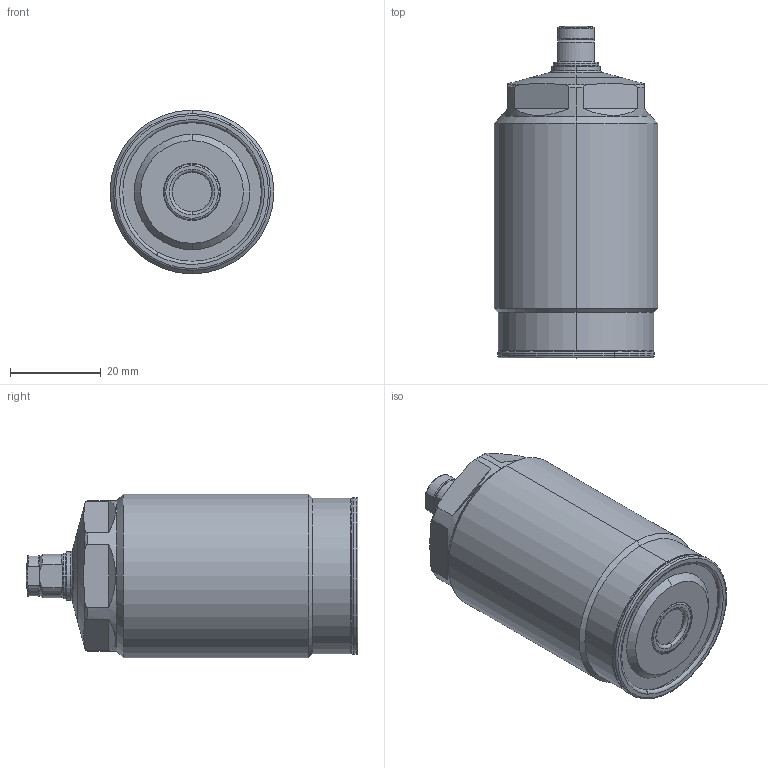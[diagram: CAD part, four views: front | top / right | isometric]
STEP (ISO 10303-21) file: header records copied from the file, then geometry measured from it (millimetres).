
FILE_DESCRIPTION(/* description */ (''),/* implementation_level */ '2;1');
FILE_NAME(/* name */ 'TNL36.stp',/* time_stamp */ '2022-11-17T13:22:42+08:00',/* author */ (''),/* organization */ (''),/* preprocessor_version */ 'ST-DEVELOPER v16.7',/* originating_system */ 'SIEMENS PLM Software NX 12.0',/* authorisation */ '');
FILE_SCHEMA (('AP203_CONFIGURATION_CONTROLLED_3D_DESIGN_OF_MECHANICAL_PARTS_AND_ASSEMBLIES_MIM_LF { 1 0 10303 403 2 1 2}'));
Length unit declared in the file: millimetre
Products named in the file (6): TNL36-01; TNL36-04; TNL36-03; TNL36-02; TNL36-05; WNC1603-x_step
Assembly tree (5 placements, depth 2):
  WNC1603-x_step
    TNL36-05
    TNL36-02
    TNL36-03
    TNL36-04
    TNL36-01
Bounding box: 36 x 73 x 36 mm (x, y, z)
Volume: 59500.2 mm3; surface area: 10571 mm2
Topology: 5 solids, 5 shells, 151 faces, 333 edges, 201 vertices
Faces by surface type: torus 47, cylinder 40, plane 36, cone 26, sphere 2
Entity records: 5181 total; most frequent: CARTESIAN_POINT 1081, DIRECTION 808, ORIENTED_EDGE 666, AXIS2_PLACEMENT_3D 358, EDGE_CURVE 333, VERTEX_POINT 201, CIRCLE 201, EDGE_LOOP 166
